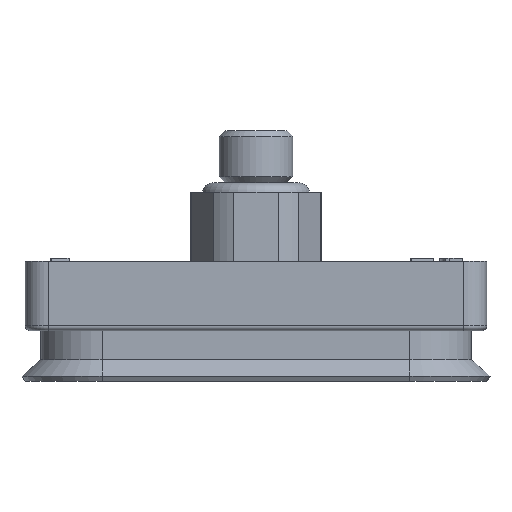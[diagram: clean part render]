
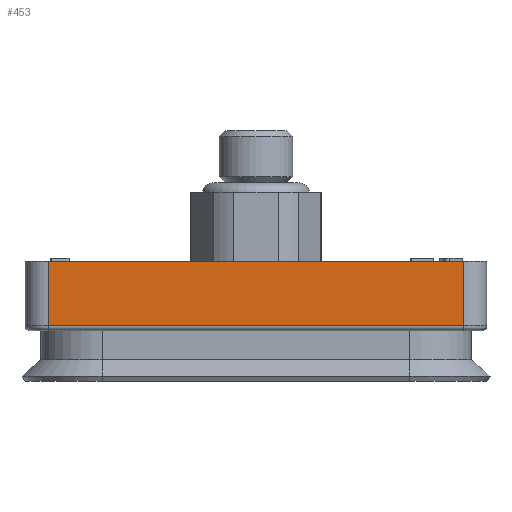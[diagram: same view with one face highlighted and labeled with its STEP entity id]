
A CAD part, front view. The second image highlights one B-rep face of the part: STEP entity #453.
In plain terms, the highlighted planar face has unit normal (0, -1, 0).
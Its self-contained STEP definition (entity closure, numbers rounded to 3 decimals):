
#453 = ADVANCED_FACE( '', ( #962 ), #963, .T. );
#962 = FACE_OUTER_BOUND( '', #1567, .T. );
#963 = PLANE( '', #1568 );
#1567 = EDGE_LOOP( '', ( #3076, #3077, #3078, #3079 ) );
#1568 = AXIS2_PLACEMENT_3D( '', #3080, #3081, #3082 );
#3076 = ORIENTED_EDGE( '', *, *, #3624, .T. );
#3077 = ORIENTED_EDGE( '', *, *, #3464, .T. );
#3078 = ORIENTED_EDGE( '', *, *, #3843, .F. );
#3079 = ORIENTED_EDGE( '', *, *, #3720, .F. );
#3080 = CARTESIAN_POINT( '', ( -13.5, -4.3, -6. ) );
#3081 = DIRECTION( '', ( 0., -1., 0. ) );
#3082 = DIRECTION( '', ( 0., 0., -1. ) );
#3464 = EDGE_CURVE( '', #4045, #4046, #4047, .T. );
#3624 = EDGE_CURVE( '', #4307, #4045, #4313, .T. );
#3720 = EDGE_CURVE( '', #4307, #4457, #4458, .T. );
#3843 = EDGE_CURVE( '', #4457, #4046, #4627, .T. );
#4045 = VERTEX_POINT( '', #4925 );
#4046 = VERTEX_POINT( '', #4926 );
#4047 = LINE( '', #4927, #4928 );
#4307 = VERTEX_POINT( '', #5441 );
#4313 = LINE( '', #5450, #5451 );
#4457 = VERTEX_POINT( '', #5839 );
#4458 = LINE( '', #5840, #5841 );
#4627 = LINE( '', #6229, #6230 );
#4925 = CARTESIAN_POINT( '', ( 13.5, -4.3, -5.7 ) );
#4926 = CARTESIAN_POINT( '', ( 13.5, -4.3, -1.5 ) );
#4927 = CARTESIAN_POINT( '', ( 13.5, -4.3, -6. ) );
#4928 = VECTOR( '', #6543, 1000. );
#5441 = CARTESIAN_POINT( '', ( -13.5, -4.3, -5.7 ) );
#5450 = CARTESIAN_POINT( '', ( 13.5, -4.3, -5.7 ) );
#5451 = VECTOR( '', #6697, 1000. );
#5839 = CARTESIAN_POINT( '', ( -13.5, -4.3, -1.5 ) );
#5840 = CARTESIAN_POINT( '', ( -13.5, -4.3, -6. ) );
#5841 = VECTOR( '', #6768, 1000. );
#6229 = CARTESIAN_POINT( '', ( -13.5, -4.3, -1.5 ) );
#6230 = VECTOR( '', #6843, 1000. );
#6543 = DIRECTION( '', ( 0., 0., 1. ) );
#6697 = DIRECTION( '', ( 1., 0., 0. ) );
#6768 = DIRECTION( '', ( 0., 0., 1. ) );
#6843 = DIRECTION( '', ( 1., 0., 0. ) );
